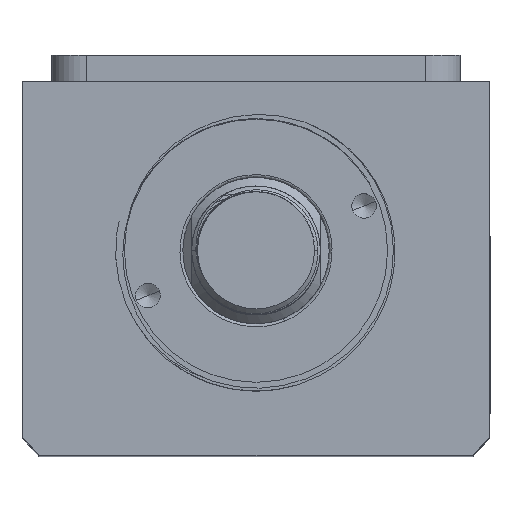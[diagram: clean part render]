
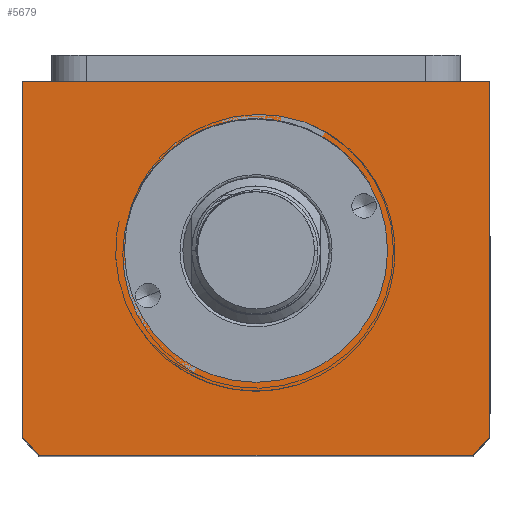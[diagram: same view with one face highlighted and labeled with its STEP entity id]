
A CAD part, top view. The second image highlights one B-rep face of the part: STEP entity #5679.
In plain terms, the highlighted planar face has unit normal (0, 0, 1).
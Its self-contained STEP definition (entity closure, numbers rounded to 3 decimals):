
#312 = DIRECTION ( 'NONE',  ( -1., 0., 0. ) ) ;
#419 = ORIENTED_EDGE ( 'NONE', *, *, #7191, .T. ) ;
#562 = CARTESIAN_POINT ( 'NONE',  ( 40., 32., 145. ) ) ;
#677 = DIRECTION ( 'NONE',  ( 0., 0., 1. ) ) ;
#795 = AXIS2_PLACEMENT_3D ( 'NONE', #2202, #9713, #3292 ) ;
#859 = VECTOR ( 'NONE', #11629, 1000. ) ;
#866 = AXIS2_PLACEMENT_3D ( 'NONE', #12671, #6266, #13766 ) ;
#942 = EDGE_CURVE ( 'NONE', #4399, #7926, #2053, .T. ) ;
#1227 = AXIS2_PLACEMENT_3D ( 'NONE', #1637, #9165, #2736 ) ;
#1637 = CARTESIAN_POINT ( 'NONE',  ( 0., 3., 145. ) ) ;
#1952 = CIRCLE ( 'NONE', #866, 51. ) ;
#1956 = CARTESIAN_POINT ( 'NONE',  ( -40., -32., 145. ) ) ;
#1959 = EDGE_CURVE ( 'NONE', #4930, #8157, #11619, .T. ) ;
#2053 = CIRCLE ( 'NONE', #795, 22.5 ) ;
#2193 = CARTESIAN_POINT ( 'NONE',  ( -37.094, -32., 145. ) ) ;
#2202 = CARTESIAN_POINT ( 'NONE',  ( 0., 3., 145. ) ) ;
#2209 = CARTESIAN_POINT ( 'NONE',  ( -22.5, 3., 145. ) ) ;
#2353 = ORIENTED_EDGE ( 'NONE', *, *, #6232, .T. ) ;
#2441 = CIRCLE ( 'NONE', #6766, 22.5 ) ;
#2459 = VERTEX_POINT ( 'NONE', #12046 ) ;
#2477 = CARTESIAN_POINT ( 'NONE',  ( -40., -28.639, 145. ) ) ;
#2736 = DIRECTION ( 'NONE',  ( 1., 0., 0. ) ) ;
#3155 = LINE ( 'NONE', #9981, #5994 ) ;
#3292 = DIRECTION ( 'NONE',  ( 1., 0., 0. ) ) ;
#3625 = VERTEX_POINT ( 'NONE', #8060 ) ;
#4094 = ORIENTED_EDGE ( 'NONE', *, *, #13117, .T. ) ;
#4142 = EDGE_LOOP ( 'NONE', ( #419, #2353, #6641, #4094, #4326, #4232 ) ) ;
#4232 = ORIENTED_EDGE ( 'NONE', *, *, #4375, .T. ) ;
#4326 = ORIENTED_EDGE ( 'NONE', *, *, #9572, .T. ) ;
#4375 = EDGE_CURVE ( 'NONE', #11388, #3625, #5351, .T. ) ;
#4399 = VERTEX_POINT ( 'NONE', #12086 ) ;
#4856 = PLANE ( 'NONE',  #9769 ) ;
#4930 = VERTEX_POINT ( 'NONE', #2193 ) ;
#5351 = LINE ( 'NONE', #5681, #13196 ) ;
#5679 = ADVANCED_FACE ( 'NONE', ( #12172, #10010 ), #4856, .T. ) ;
#5681 = CARTESIAN_POINT ( 'NONE',  ( -40., 32., 145. ) ) ;
#5994 = VECTOR ( 'NONE', #11071, 1000. ) ;
#6232 = EDGE_CURVE ( 'NONE', #8128, #4930, #1952, .T. ) ;
#6266 = DIRECTION ( 'NONE',  ( 0., 0., 1. ) ) ;
#6641 = ORIENTED_EDGE ( 'NONE', *, *, #1959, .T. ) ;
#6766 = AXIS2_PLACEMENT_3D ( 'NONE', #7106, #677, #8217 ) ;
#6996 = DIRECTION ( 'NONE',  ( 1., 0., 0. ) ) ;
#7106 = CARTESIAN_POINT ( 'NONE',  ( 0., 3., 145. ) ) ;
#7191 = EDGE_CURVE ( 'NONE', #3625, #8128, #12994, .T. ) ;
#7926 = VERTEX_POINT ( 'NONE', #2209 ) ;
#8060 = CARTESIAN_POINT ( 'NONE',  ( -40., 32., 145. ) ) ;
#8128 = VERTEX_POINT ( 'NONE', #2477 ) ;
#8157 = VERTEX_POINT ( 'NONE', #9064 ) ;
#8217 = DIRECTION ( 'NONE',  ( 1., 0., 0. ) ) ;
#8389 = ORIENTED_EDGE ( 'NONE', *, *, #9824, .F. ) ;
#8854 = DIRECTION ( 'NONE',  ( 0., -1., 0. ) ) ;
#8900 = CARTESIAN_POINT ( 'NONE',  ( -40., 32., 145. ) ) ;
#9064 = CARTESIAN_POINT ( 'NONE',  ( 37.094, -32., 145. ) ) ;
#9165 = DIRECTION ( 'NONE',  ( 0., 0., 1. ) ) ;
#9572 = EDGE_CURVE ( 'NONE', #2459, #11388, #3155, .T. ) ;
#9713 = DIRECTION ( 'NONE',  ( 0., 0., 1. ) ) ;
#9769 = AXIS2_PLACEMENT_3D ( 'NONE', #12329, #13418, #6996 ) ;
#9824 = EDGE_CURVE ( 'NONE', #7926, #4399, #2441, .T. ) ;
#9826 = VECTOR ( 'NONE', #8854, 1000. ) ;
#9981 = CARTESIAN_POINT ( 'NONE',  ( 40., 32., 145. ) ) ;
#10010 = FACE_OUTER_BOUND ( 'NONE', #4142, .T. ) ;
#11071 = DIRECTION ( 'NONE',  ( 0., 1., 0. ) ) ;
#11388 = VERTEX_POINT ( 'NONE', #562 ) ;
#11619 = LINE ( 'NONE', #1956, #859 ) ;
#11629 = DIRECTION ( 'NONE',  ( 1., 0., 0. ) ) ;
#12046 = CARTESIAN_POINT ( 'NONE',  ( 40., -28.639, 145. ) ) ;
#12081 = CIRCLE ( 'NONE', #1227, 51. ) ;
#12086 = CARTESIAN_POINT ( 'NONE',  ( 22.5, 3., 145. ) ) ;
#12172 = FACE_BOUND ( 'NONE', #13735, .T. ) ;
#12329 = CARTESIAN_POINT ( 'NONE',  ( 0., 0., 145. ) ) ;
#12671 = CARTESIAN_POINT ( 'NONE',  ( 0., 3., 145. ) ) ;
#12994 = LINE ( 'NONE', #8900, #9826 ) ;
#13117 = EDGE_CURVE ( 'NONE', #8157, #2459, #12081, .T. ) ;
#13196 = VECTOR ( 'NONE', #312, 1000. ) ;
#13291 = ORIENTED_EDGE ( 'NONE', *, *, #942, .F. ) ;
#13418 = DIRECTION ( 'NONE',  ( 0., 0., 1. ) ) ;
#13735 = EDGE_LOOP ( 'NONE', ( #13291, #8389 ) ) ;
#13766 = DIRECTION ( 'NONE',  ( 1., 0., 0. ) ) ;
